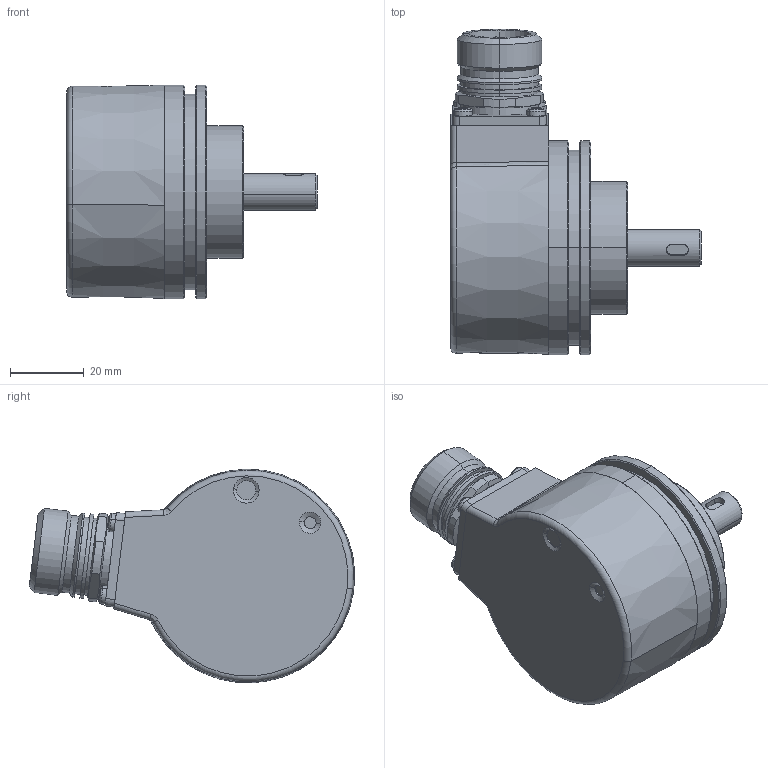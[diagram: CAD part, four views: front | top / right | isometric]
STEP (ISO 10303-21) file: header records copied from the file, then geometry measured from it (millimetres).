
FILE_DESCRIPTION (( 'STEP AP214' ), '1' );
FILE_NAME ('5814SIL.1AX4.XXXX.STEP', '2010-07-22T06:41:15', ( 'admin' ), ( 'Fritz Kübler GmbH' ), 'SwSTEP 2.0', 'SolidWorks 2009', '' );
FILE_SCHEMA (( 'AUTOMOTIVE_DESIGN' ));
Length unit declared in the file: millimetre
Products named in the file (1): 5814SIL.1AX4.XXXX
Bounding box: 68 x 88.28 x 58 mm (x, y, z)
Surface area: 22479.3 mm2 (no closed solid volume)
Topology: 0 solids, 31 shells, 325 faces, 851 edges, 541 vertices
Faces by surface type: cylinder 137, plane 88, cone 42, sphere 32, torus 22, bspline 4
Entity records: 14032 total; most frequent: CARTESIAN_POINT 2248, DIRECTION 1946, ORIENTED_EDGE 1488, EDGE_CURVE 827, AXIS2_PLACEMENT_3D 821, VERTEX_POINT 541, CIRCLE 499, EDGE_LOOP 376
